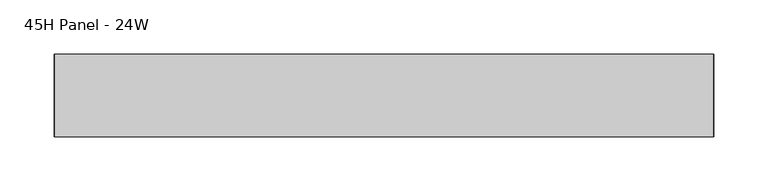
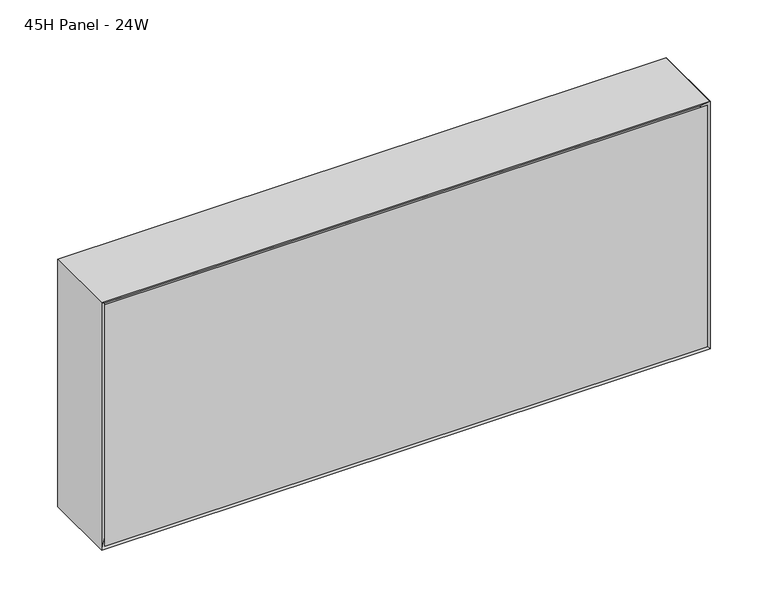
"""IFC4 building model written with IfcOpenShell, lengths in millimetres: furniture geometry, Steelcase - Montage - Frame - 10H - Enhanced Standard - Single Stack-On : 45H Panel - 24W."""

from ifc_helpers import new_model, si_unit, frame, origin, place, context, project, spatial, polyline, outline, extrude, faceted_brep, source, transform, mapped, element, save


def furniture_45h_panel_24w_ea8d109d(model_context):
    return source(origin(), model_context, "Body", "SolidModel", [
        faceted_brep([(600.0750027, 31.7500194, 1389.0752415), (9.5250028, 31.7500194, 1389.0752415), (9.5250028, 31.7500194, 1146.175), (600.0750027, 31.7500194, 1146.175), (606.425, 38.1000194, 1395.4252415), (606.425, 38.1000194, 1139.825), (3.175, 38.1000194, 1139.825), (3.175, 38.1000194, 1395.4252415)], [[[0, 1, 2, 3]], [[4, 5, 6, 7]], [[4, 0, 3, 5]], [[5, 3, 2, 6]], [[6, 2, 1, 7]], [[7, 1, 0, 4]]]),
        faceted_brep([(600.0750027, -31.7500194, 1389.0752415), (600.0750027, -31.7500194, 1146.175), (9.5250028, -31.7500194, 1146.175), (9.5250028, -31.7500194, 1389.0752415), (606.425, -38.1000194, 1395.4252415), (3.175, -38.1000194, 1395.4252415), (3.175, -38.1000194, 1139.825), (606.425, -38.1000194, 1139.825)], [[[0, 1, 2, 3]], [[4, 5, 6, 7]], [[4, 7, 1, 0]], [[7, 6, 2, 1]], [[6, 5, 3, 2]], [[5, 4, 0, 3]]]),
        faceted_brep([(609.6, -38.1000015, 1136.65), (609.6, 38.1000015, 1136.65), (609.6, 38.1000015, 1398.6002415), (609.6, -38.1000106, 1398.6002414), (0.0, 38.1000015, 1136.65), (0.0, -38.1000015, 1136.65), (0.0, -38.1000015, 1398.6002415), (0.0, 38.1000015, 1398.6002415), (6.3500484, 31.749953, 1143.0000484), (603.2499879, 31.749953, 1143.0000484), (6.35, -31.749953, 1143.0000484), (603.2499879, -31.749953, 1143.0000484), (6.3500169, 31.7499846, 1392.2502245), (6.3500012, -31.7500003, 1392.250193), (603.2499879, -31.7499973, 1392.250193), (603.2499879, 31.7499885, 1392.2502293)], [[[0, 1, 2, 3]], [[4, 5, 6, 7]], [[1, 0, 5, 4]], [[1, 4, 8, 9]], [[9, 8, 10, 11]], [[5, 0, 11, 10]], [[4, 7, 12, 8]], [[6, 5, 10, 13]], [[10, 8, 12, 13]], [[9, 11, 14, 15]], [[0, 3, 14, 11]], [[2, 1, 9, 15]], [[3, 2, 15, 14]], [[7, 6, 13, 12]]]),
        faceted_brep([(609.6, -38.1000015, 1398.6002415), (0.0, -38.1000015, 1398.6002415), (6.3500484, -31.749953, 1392.250193), (603.2499516, -31.749953, 1392.250193), (6.3500484, 31.749953, 1392.250193), (603.2499516, 31.749953, 1392.250193), (0.0, 38.1000015, 1398.6002415), (609.6, 38.1000015, 1398.6002415)], [[[0, 1, 2, 3]], [[3, 2, 4, 5]], [[6, 7, 5, 4]], [[1, 0, 7, 6]], [[2, 1, 6, 4]], [[0, 3, 5, 7]]]),
        extrude(outline(polyline([(603.2499879, 31.7500016), (603.2499879, -31.7499985), (6.35, -31.7499985), (6.35, 31.7500016), (603.2499879, 31.7500016)])), frame((0.0, 0.0, 1142.9952145), z_axis=(0.0, 0.0, 1.0), x_axis=(1.0, 0.0, 0.0)), (0.0, 0.0, 1.0), 249.2549785),
    ])


if __name__ == "__main__":
    model = new_model("IFC4")
    model_context = context("Model", 3, world=origin())
    ifc_project = project(units=[si_unit("LENGTHUNIT", "METRE", prefix="MILLI")], contexts=[model_context])
    site = spatial("IfcSite", under=ifc_project)
    building = spatial("IfcBuilding", under=site)
    placement = place(None, origin())
    furniture_45h_panel_24w_shape = furniture_45h_panel_24w_ea8d109d(model_context)
    element("IfcFurniture", 1, ObjectType="Steelcase - Montage - Frame - 10H - Enhanced Standard - Single Stack-On : 45H Panel - 24W", at=placement, inside=building, context=model_context, shape_type="MappedRepresentation", body=[
        mapped(furniture_45h_panel_24w_shape, transform((0.0, 0.0, 0.0), x_axis=(1.0, 0.0, 0.0), y_axis=(0.0, 1.0, 0.0), z_axis=(0.0, 0.0, 1.0))),
    ])
    save(model, "model.ifc")
